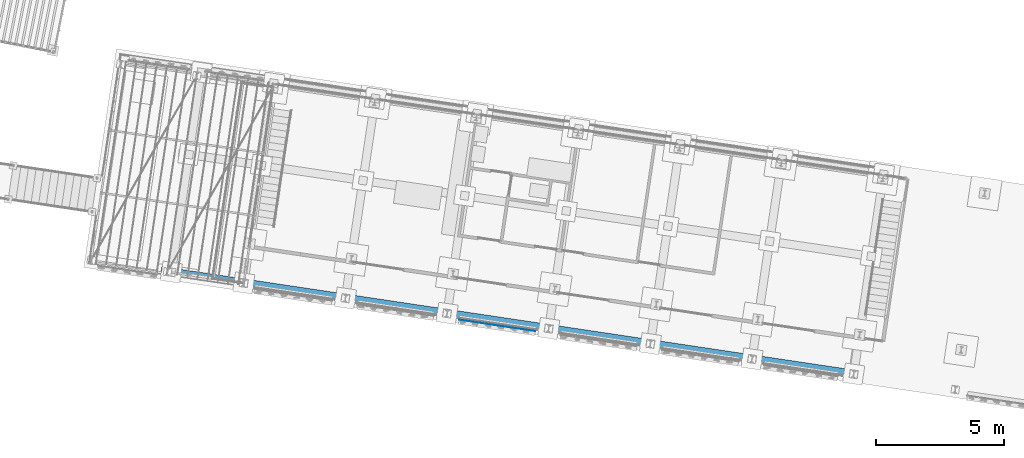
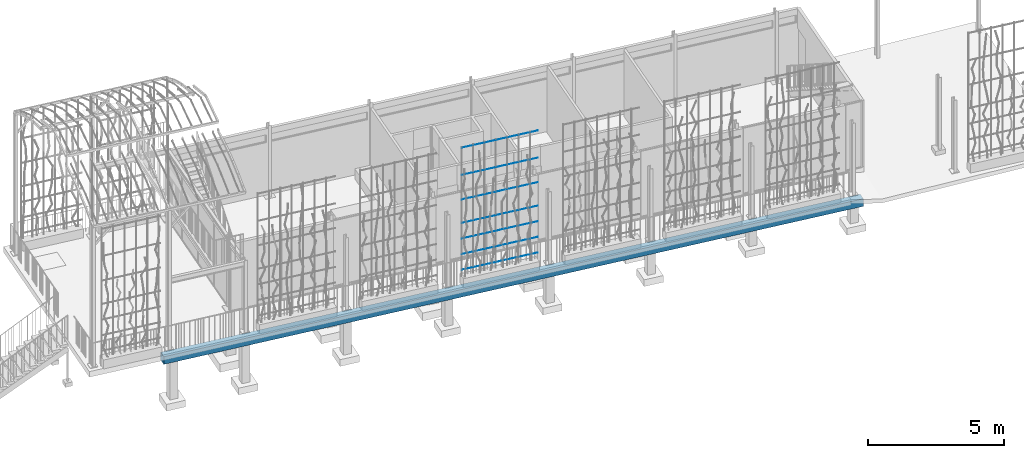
# One storey, part 59 of 142: 7 members, 1 beam, 2 elements without a shape of their own.
"""IFC4 building model written with IfcOpenShell, lengths in metres."""

from ifc_helpers import new_model, si_unit, direction, frame, origin_with_axes, place, context, subcontext, project, spatial, polyline, circle, outline, extrude, material, material_profile, profile_set, profile_usage, type_object, element, aggregate, save


model = new_model("IFC4")

# Units and contexts
model_context = context("Model", 3, precision=1e-05, world=origin_with_axes(), true_north=direction((0.0, 1.0)))
body_context = subcontext(model_context, "Body", "Model", "MODEL_VIEW")
ifc_project = project(units=[si_unit("LENGTHUNIT", "METRE"), si_unit("AREAUNIT", "SQUARE_METRE"), si_unit("VOLUMEUNIT", "CUBIC_METRE")], contexts=[model_context])

# Site, building, storey
site_placement = place(None, origin_with_axes())
site = spatial("IfcSite", under=ifc_project, at=site_placement, Name="Lares · Rua das Mercês · artigo 4771")
building_placement = place(site_placement, frame((15.0, 9.7, 14.65), z_axis=(0.0, 0.0, 1.0), x_axis=(0.989015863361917, -0.147809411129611, 0.0)))
building = spatial("IfcBuilding", under=site, at=building_placement, Name="Casa Sobreposta")
storey_placement = place(building_placement, origin_with_axes())
storey = spatial("IfcBuildingStorey", under=building, at=storey_placement, Name="00 · Habitação e estacionamento", Elevation=14.65)

# Assembly, members
assembly_1_placement = place(storey_placement, origin_with_axes())
assembly_1 = element("IfcElementAssembly", 1, at=assembly_1_placement, inside=storey, Name="Fachada sul e pátio · estrutura e trepadeiras", ObjectType="LIVING_SHADE_TRELLIS", PredefinedType="USERDEFINED")
ifc_material_1 = material(Name="Aço galvanizado / Stahl verzinkt", Category="steel")
ifc_material_profile = material_profile(ifc_material_1, circle(Radius=0.002))
ifc_profile_set = profile_set([ifc_material_profile], Name="D0.004")
ifc_profile_usage_1 = profile_usage(ifc_profile_set)
member_type = type_object("IfcMemberType", Name="D0.004 / galvanized", PredefinedType="NOTDEFINED", material=ifc_profile_set)
member_1_placement = place(assembly_1_placement, frame((8.5, -1.61, 0.65), z_axis=(1.0, 0.0, 0.0), x_axis=(0.0, -1.0, 0.0)))
member_1 = element("IfcMember", 2, at=member_1_placement, type_object=member_type, material=ifc_profile_usage_1, Name="Trepadeiras · fio horizontal", context=body_context, shape_type="SweptSolid", body=[
    extrude(circle(Radius=0.002), origin_with_axes(), (0.0, 0.0, 1.0), 3.0),
])
ifc_profile_usage_2 = profile_usage(ifc_profile_set)
member_2_placement = place(assembly_1_placement, frame((8.5, -1.61, 1.35), z_axis=(1.0, 0.0, 0.0), x_axis=(0.0, -1.0, 0.0)))
member_2 = element("IfcMember", 3, at=member_2_placement, type_object=member_type, material=ifc_profile_usage_2, Name="Trepadeiras · fio horizontal", context=body_context, shape_type="SweptSolid", body=[
    extrude(circle(Radius=0.002), origin_with_axes(), (0.0, 0.0, 1.0), 3.0),
])
ifc_profile_usage_3 = profile_usage(ifc_profile_set)
member_3_placement = place(assembly_1_placement, frame((8.5, -1.61, 2.05), z_axis=(1.0, 0.0, 0.0), x_axis=(0.0, -1.0, 0.0)))
member_3 = element("IfcMember", 4, at=member_3_placement, type_object=member_type, material=ifc_profile_usage_3, Name="Trepadeiras · fio horizontal", context=body_context, shape_type="SweptSolid", body=[
    extrude(circle(Radius=0.002), origin_with_axes(), (0.0, 0.0, 1.0), 3.0),
])
ifc_profile_usage_4 = profile_usage(ifc_profile_set)
member_4_placement = place(assembly_1_placement, frame((8.5, -1.61, 2.75), z_axis=(1.0, 0.0, 0.0), x_axis=(0.0, -1.0, 0.0)))
member_4 = element("IfcMember", 5, at=member_4_placement, type_object=member_type, material=ifc_profile_usage_4, Name="Trepadeiras · fio horizontal", context=body_context, shape_type="SweptSolid", body=[
    extrude(circle(Radius=0.002), origin_with_axes(), (0.0, 0.0, 1.0), 3.0),
])
ifc_profile_usage_5 = profile_usage(ifc_profile_set)
member_5_placement = place(assembly_1_placement, frame((8.5, -1.61, 3.8), z_axis=(1.0, 0.0, 0.0), x_axis=(0.0, -1.0, 0.0)))
member_5 = element("IfcMember", 6, at=member_5_placement, type_object=member_type, material=ifc_profile_usage_5, Name="Trepadeiras · fio horizontal", context=body_context, shape_type="SweptSolid", body=[
    extrude(circle(Radius=0.002), origin_with_axes(), (0.0, 0.0, 1.0), 3.0),
])
ifc_profile_usage_6 = profile_usage(ifc_profile_set)
member_6_placement = place(assembly_1_placement, frame((8.5, -1.61, 4.9), z_axis=(1.0, 0.0, 0.0), x_axis=(0.0, -1.0, 0.0)))
member_6 = element("IfcMember", 7, at=member_6_placement, type_object=member_type, material=ifc_profile_usage_6, Name="Trepadeiras · fio horizontal", context=body_context, shape_type="SweptSolid", body=[
    extrude(circle(Radius=0.002), origin_with_axes(), (0.0, 0.0, 1.0), 3.0),
])
ifc_profile_usage_7 = profile_usage(ifc_profile_set)
member_7_placement = place(assembly_1_placement, frame((8.5, -1.61, 6.12), z_axis=(1.0, 0.0, 0.0), x_axis=(0.0, -1.0, 0.0)))
member_7 = element("IfcMember", 8, at=member_7_placement, type_object=member_type, material=ifc_profile_usage_7, Name="Trepadeiras · fio horizontal", context=body_context, shape_type="SweptSolid", body=[
    extrude(circle(Radius=0.002), origin_with_axes(), (0.0, 0.0, 1.0), 3.0),
])
aggregate(assembly_1, [member_1, member_2, member_3, member_4, member_5, member_6, member_7])

# Assembly, beam
assembly_2_placement = place(storey_placement, origin_with_axes())
assembly_2 = element("IfcElementAssembly", 9, at=assembly_2_placement, inside=storey, Name="Pódio · terraço, casa térrea e cisterna", ObjectType="CISTERN_PODIUM", PredefinedType="USERDEFINED")
ifc_material_2 = material(Name="Betão armado / Stahlbeton", Category="concrete")
beam_placement = place(assembly_2_placement, frame((0.0, 0.0, -0.59), z_axis=(0.0, 0.0, 1.0), x_axis=(1.0, 0.0, 0.0)))
beam = element("IfcBeam", 10, at=beam_placement, material=ifc_material_2, Name="Pódio suspenso · viga longitudinal", context=body_context, shape_type="SweptSolid", body=[
    extrude(outline(polyline([(24.36, -1.59), (24.36, -1.27), (-3.25, -1.27), (-3.25, -1.59), (24.36, -1.59)])), origin_with_axes(), (0.0, 0.0, 1.0), 0.34),
])
aggregate(assembly_2, [beam])

save(model, "model.ifc")
